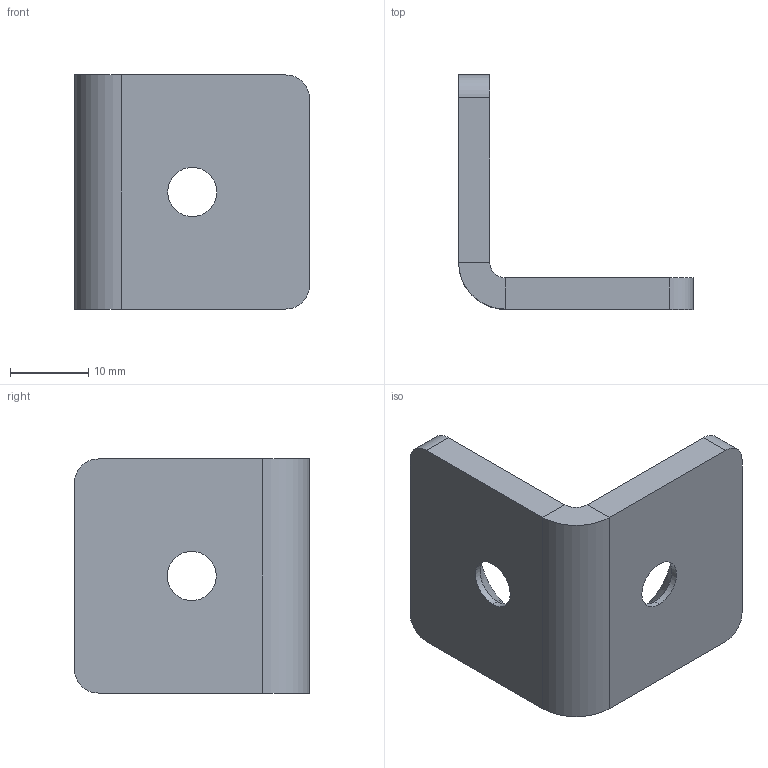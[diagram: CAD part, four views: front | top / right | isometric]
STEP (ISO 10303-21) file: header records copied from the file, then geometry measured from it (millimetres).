
FILE_DESCRIPTION (( 'STEP AP214' ), '1' );
FILE_NAME ('967-30-30-L-1-SR.step', '2023-06-26T09:08:04', ( '' ), ( '' ), 'SwSTEP 2.0', 'SolidWorks 2022', '' );
FILE_SCHEMA (( 'AUTOMOTIVE_DESIGN' ));
Length unit declared in the file: millimetre
Products named in the file (1): 967-30-30-L-1-SR
Bounding box: 30.08 x 30.08 x 30 mm (x, y, z)
Volume: 5990.9 mm3; surface area: 3892.4 mm2
Topology: 1 solids, 1 shells, 26 faces, 60 edges, 36 vertices
Faces by surface type: plane 12, cylinder 10, cone 4
Entity records: 774 total; most frequent: DIRECTION 138, CARTESIAN_POINT 123, ORIENTED_EDGE 120, EDGE_CURVE 60, AXIS2_PLACEMENT_3D 51, VECTOR 36, VERTEX_POINT 36, LINE 36
